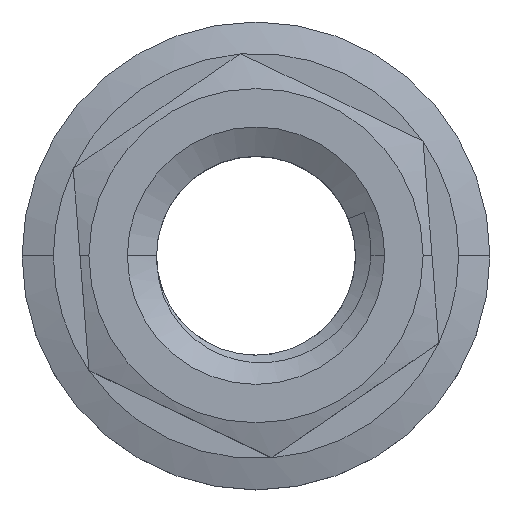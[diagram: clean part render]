
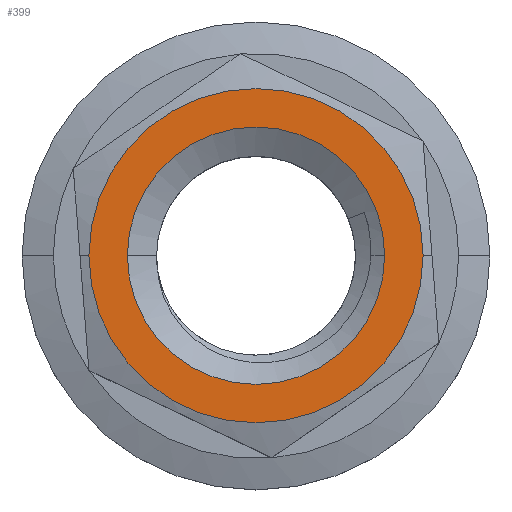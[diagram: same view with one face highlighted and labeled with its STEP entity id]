
A CAD part, top view. The second image highlights one B-rep face of the part: STEP entity #399.
In plain terms, the highlighted planar face has unit normal (0, 0, 1).
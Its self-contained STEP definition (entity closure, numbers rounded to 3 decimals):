
#52 = CIRCLE ( 'NONE', #1453, 4.4 ) ;
#208 = EDGE_CURVE ( 'NONE', #1190, #1263, #1657, .T. ) ;
#217 = AXIS2_PLACEMENT_3D ( 'NONE', #1601, #1397, #1185 ) ;
#281 = CARTESIAN_POINT ( 'NONE',  ( 0., 0., 7. ) ) ;
#398 = EDGE_LOOP ( 'NONE', ( #1931, #1508 ) ) ;
#399 = ADVANCED_FACE ( 'NONE', ( #1062, #1328 ), #1799, .T. ) ;
#447 = CARTESIAN_POINT ( 'NONE',  ( 0., 0., 7. ) ) ;
#478 = VERTEX_POINT ( 'NONE', #1504 ) ;
#513 = DIRECTION ( 'NONE',  ( -1., 0., 0. ) ) ;
#523 = EDGE_CURVE ( 'NONE', #478, #1253, #1340, .T. ) ;
#630 = EDGE_LOOP ( 'NONE', ( #943, #1980 ) ) ;
#711 = AXIS2_PLACEMENT_3D ( 'NONE', #281, #1459, #1247 ) ;
#712 = DIRECTION ( 'NONE',  ( 0., 0., -1. ) ) ;
#764 = CARTESIAN_POINT ( 'NONE',  ( 5.714, 0., 7. ) ) ;
#799 = DIRECTION ( 'NONE',  ( 1., 0., 0. ) ) ;
#913 = AXIS2_PLACEMENT_3D ( 'NONE', #447, #1623, #1415 ) ;
#943 = ORIENTED_EDGE ( 'NONE', *, *, #208, .F. ) ;
#1005 = DIRECTION ( 'NONE',  ( 0., 0., -1. ) ) ;
#1062 = FACE_BOUND ( 'NONE', #398, .T. ) ;
#1107 = CARTESIAN_POINT ( 'NONE',  ( -5.714, 0., 7. ) ) ;
#1166 = CIRCLE ( 'NONE', #1350, 5.714 ) ;
#1185 = DIRECTION ( 'NONE',  ( 1., 0., 0. ) ) ;
#1190 = VERTEX_POINT ( 'NONE', #1107 ) ;
#1204 = EDGE_CURVE ( 'NONE', #1263, #1190, #1166, .T. ) ;
#1206 = CARTESIAN_POINT ( 'NONE',  ( 0., 0., 7. ) ) ;
#1247 = DIRECTION ( 'NONE',  ( 1., 0., 0. ) ) ;
#1253 = VERTEX_POINT ( 'NONE', #1836 ) ;
#1263 = VERTEX_POINT ( 'NONE', #764 ) ;
#1324 = CARTESIAN_POINT ( 'NONE',  ( 0., 0., 7. ) ) ;
#1328 = FACE_OUTER_BOUND ( 'NONE', #630, .T. ) ;
#1340 = CIRCLE ( 'NONE', #711, 4.4 ) ;
#1350 = AXIS2_PLACEMENT_3D ( 'NONE', #1324, #712, #513 ) ;
#1397 = DIRECTION ( 'NONE',  ( 0., 0., 1. ) ) ;
#1415 = DIRECTION ( 'NONE',  ( -1., 0., 0. ) ) ;
#1453 = AXIS2_PLACEMENT_3D ( 'NONE', #1206, #1005, #799 ) ;
#1459 = DIRECTION ( 'NONE',  ( 0., 0., -1. ) ) ;
#1504 = CARTESIAN_POINT ( 'NONE',  ( -4.4, 0., 7. ) ) ;
#1508 = ORIENTED_EDGE ( 'NONE', *, *, #523, .T. ) ;
#1601 = CARTESIAN_POINT ( 'NONE',  ( 0., 0., 7. ) ) ;
#1623 = DIRECTION ( 'NONE',  ( 0., 0., -1. ) ) ;
#1657 = CIRCLE ( 'NONE', #913, 5.714 ) ;
#1685 = EDGE_CURVE ( 'NONE', #1253, #478, #52, .T. ) ;
#1799 = PLANE ( 'NONE',  #217 ) ;
#1836 = CARTESIAN_POINT ( 'NONE',  ( 4.4, 0., 7. ) ) ;
#1931 = ORIENTED_EDGE ( 'NONE', *, *, #1685, .T. ) ;
#1980 = ORIENTED_EDGE ( 'NONE', *, *, #1204, .F. ) ;
